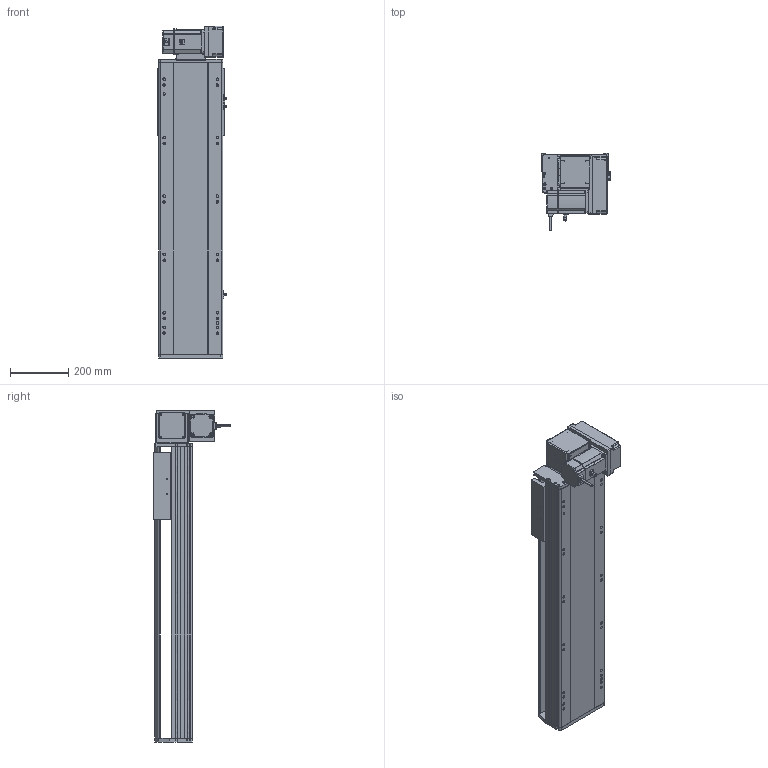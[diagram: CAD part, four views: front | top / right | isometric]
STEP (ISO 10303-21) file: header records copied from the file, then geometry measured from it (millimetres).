
FILE_DESCRIPTION (( 'STEP AP214' ), '1' );
FILE_NAME ('RTB22S-XX-650-RM-M75-C4.STEP', '2025-12-12T07:45:07', ( '' ), ( '' ), 'SwSTEP 2.0', 'SolidWorks 2018', '' );
FILE_SCHEMA (( 'AUTOMOTIVE_DESIGN' ));
Length unit declared in the file: millimetre
Products named in the file (14): RTB22S-GY-001耜裔^RTB22S-XX-XX-RM-M75-C4; RTH22-GY-013外置感应片^RTB22S-XX-XX-RM-M75-C4; RTB22S-GY-017P^RTB22S-RM-々湍釱蚾饜_RTB22S-XX-XX-RM-M75-C4; RTB22S-L-004賑釱^RTB22S-XX-XX-RM-M75-C4; RTB22S-GY-018P^RTB22S-RM-々湍釱蚾饜_RTB22S-XX-XX-RM-M75-C4; OMRON EE-SX672 传感器^RTB22S-XX-XX-RM-M75-C4; RTB22S-XX-650-RM-M75-C4; 750W萇儂^RTB22S-XX-XX-RM-M75-C4; RTB22S-L-011菁釱^RTB22S-XX-XX-RM-M75-C4; RTB22S-GY-005P^RTB22S-RM-々湍釱蚾饜_RTB22S-XX-XX-RM-M75-C4; RTB22S-GY-014--々湍釱^RTB22S-RM-々湍釱蚾饜_RTB22S-XX-XX-RM-M75-C4; RTB22S-RM-々湍釱蚾饜^RTB22S-XX-XX-RM-M75-C4; RTB22S-GY-007奻裔^RTB22S-XX-XX-RM-M75-C4; RTB22S-GY-008-M75--萇儂啣^RTB22S-RM-々湍釱蚾饜_RTB22S-XX-XX-RM-M75-C4
Assembly tree (16 placements, depth 3):
  RTB22S-XX-650-RM-M75-C4
    RTB22S-L-011菁釱^RTB22S-XX-XX-RM-M75-C4
    RTB22S-GY-001耜裔^RTB22S-XX-XX-RM-M75-C4
    750W萇儂^RTB22S-XX-XX-RM-M75-C4
    RTB22S-GY-007奻裔^RTB22S-XX-XX-RM-M75-C4
    RTB22S-L-004賑釱^RTB22S-XX-XX-RM-M75-C4
    RTH22-GY-013外置感应片^RTB22S-XX-XX-RM-M75-C4
    OMRON EE-SX672 传感器^RTB22S-XX-XX-RM-M75-C4  x3
    RTB22S-RM-々湍釱蚾饜^RTB22S-XX-XX-RM-M75-C4
      RTB22S-GY-014--々湍釱^RTB22S-RM-々湍釱蚾饜_RTB22S-XX-XX-RM-M75-C4
      RTB22S-GY-017P^RTB22S-RM-々湍釱蚾饜_RTB22S-XX-XX-RM-M75-C4  x2
      RTB22S-GY-005P^RTB22S-RM-々湍釱蚾饜_RTB22S-XX-XX-RM-M75-C4
      RTB22S-GY-008-M75--萇儂啣^RTB22S-RM-々湍釱蚾饜_RTB22S-XX-XX-RM-M75-C4
      RTB22S-GY-018P^RTB22S-RM-々湍釱蚾饜_RTB22S-XX-XX-RM-M75-C4
Bounding box: 238.5 x 264.7 x 1137.5 mm (x, y, z)
Volume: 17207908 mm3; surface area: 1809737.5 mm2
Topology: 15 solids, 15 shells, 1947 faces, 5286 edges, 3392 vertices
Faces by surface type: plane 911, cylinder 598, bspline 296, cone 130, sphere 8, torus 4
Entity records: 51452 total; most frequent: CARTESIAN_POINT 14876, ORIENTED_EDGE 7376, DIRECTION 7062, EDGE_CURVE 3688, AXIS2_PLACEMENT_3D 2478, VERTEX_POINT 2396, VECTOR 2106, LINE 2106
